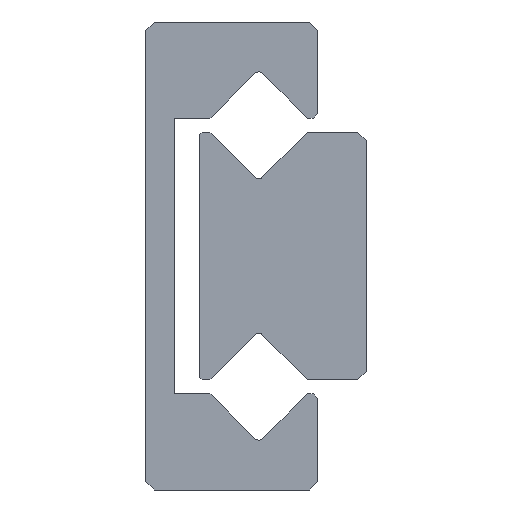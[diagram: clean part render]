
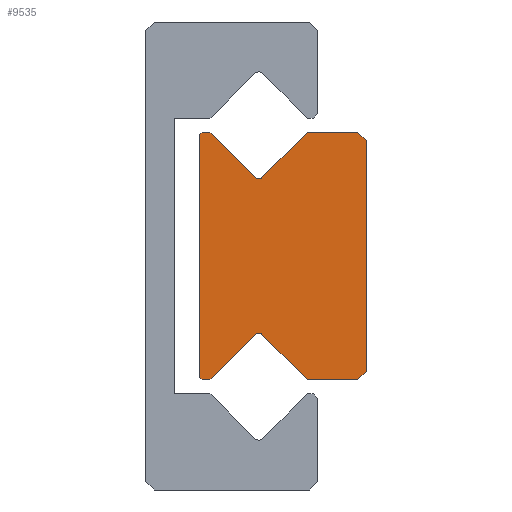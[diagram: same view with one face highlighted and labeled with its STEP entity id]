
A CAD part, left-side view. The second image highlights one B-rep face of the part: STEP entity #9535.
In plain terms, the highlighted planar face has unit normal (-1, 0, 0).
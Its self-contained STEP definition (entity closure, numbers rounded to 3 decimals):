
#52=CIRCLE('',#10086,0.2);
#57=CIRCLE('',#10099,0.2);
#1073=ORIENTED_EDGE('',*,*,#3935,.F.);
#1074=ORIENTED_EDGE('',*,*,#3987,.F.);
#1075=ORIENTED_EDGE('',*,*,#3981,.F.);
#1076=ORIENTED_EDGE('',*,*,#3978,.F.);
#1077=ORIENTED_EDGE('',*,*,#3975,.F.);
#1078=ORIENTED_EDGE('',*,*,#3972,.T.);
#1079=ORIENTED_EDGE('',*,*,#3969,.F.);
#1080=ORIENTED_EDGE('',*,*,#3966,.F.);
#1081=ORIENTED_EDGE('',*,*,#3963,.F.);
#1082=ORIENTED_EDGE('',*,*,#3960,.F.);
#1083=ORIENTED_EDGE('',*,*,#3954,.F.);
#1084=ORIENTED_EDGE('',*,*,#3951,.F.);
#1085=ORIENTED_EDGE('',*,*,#3948,.F.);
#1086=ORIENTED_EDGE('',*,*,#3945,.T.);
#1087=ORIENTED_EDGE('',*,*,#3942,.F.);
#1088=ORIENTED_EDGE('',*,*,#3939,.F.);
#3935=EDGE_CURVE('',#5409,#5410,#6401,.T.);
#3939=EDGE_CURVE('',#5410,#5413,#6405,.T.);
#3942=EDGE_CURVE('',#5413,#5415,#6408,.T.);
#3945=EDGE_CURVE('',#5417,#5415,#52,.T.);
#3948=EDGE_CURVE('',#5417,#5419,#6412,.T.);
#3951=EDGE_CURVE('',#5419,#5421,#6415,.T.);
#3954=EDGE_CURVE('',#5421,#5423,#6418,.T.);
#3960=EDGE_CURVE('',#5423,#5428,#6421,.T.);
#3963=EDGE_CURVE('',#5428,#5430,#6424,.T.);
#3966=EDGE_CURVE('',#5430,#5432,#6427,.T.);
#3969=EDGE_CURVE('',#5432,#5434,#6430,.T.);
#3972=EDGE_CURVE('',#5436,#5434,#57,.T.);
#3975=EDGE_CURVE('',#5436,#5438,#6434,.T.);
#3978=EDGE_CURVE('',#5438,#5440,#6437,.T.);
#3981=EDGE_CURVE('',#5440,#5442,#6440,.T.);
#3987=EDGE_CURVE('',#5442,#5409,#6443,.T.);
#5409=VERTEX_POINT('',#14453);
#5410=VERTEX_POINT('',#14454);
#5413=VERTEX_POINT('',#14462);
#5415=VERTEX_POINT('',#14468);
#5417=VERTEX_POINT('',#14474);
#5419=VERTEX_POINT('',#14480);
#5421=VERTEX_POINT('',#14486);
#5423=VERTEX_POINT('',#14492);
#5428=VERTEX_POINT('',#14504);
#5430=VERTEX_POINT('',#14510);
#5432=VERTEX_POINT('',#14516);
#5434=VERTEX_POINT('',#14522);
#5436=VERTEX_POINT('',#14528);
#5438=VERTEX_POINT('',#14534);
#5440=VERTEX_POINT('',#14540);
#5442=VERTEX_POINT('',#14546);
#6401=LINE('',#14452,#7239);
#6405=LINE('',#14461,#7243);
#6408=LINE('',#14467,#7246);
#6412=LINE('',#14479,#7250);
#6415=LINE('',#14485,#7253);
#6418=LINE('',#14491,#7256);
#6421=LINE('',#14503,#7259);
#6424=LINE('',#14509,#7262);
#6427=LINE('',#14515,#7265);
#6430=LINE('',#14521,#7268);
#6434=LINE('',#14533,#7272);
#6437=LINE('',#14539,#7275);
#6440=LINE('',#14545,#7278);
#6443=LINE('',#14557,#7281);
#7239=VECTOR('',#11262,1000.);
#7243=VECTOR('',#11268,1000.);
#7246=VECTOR('',#11273,1000.);
#7250=VECTOR('',#11285,1000.);
#7253=VECTOR('',#11290,1000.);
#7256=VECTOR('',#11295,1000.);
#7259=VECTOR('',#11306,1000.);
#7262=VECTOR('',#11311,1000.);
#7265=VECTOR('',#11316,1000.);
#7268=VECTOR('',#11321,1000.);
#7272=VECTOR('',#11333,1000.);
#7275=VECTOR('',#11338,1000.);
#7278=VECTOR('',#11343,1000.);
#7281=VECTOR('',#11354,1000.);
#8100=EDGE_LOOP('',(#1073,#1074,#1075,#1076,#1077,#1078,#1079,#1080,#1081,
#1082,#1083,#1084,#1085,#1086,#1087,#1088));
#8712=FACE_BOUND('',#8100,.T.);
#9316=PLANE('',#10109);
#9535=ADVANCED_FACE('',(#8712),#9316,.F.);
#10086=AXIS2_PLACEMENT_3D('',#14473,#11278,#11279);
#10099=AXIS2_PLACEMENT_3D('',#14527,#11326,#11327);
#10109=AXIS2_PLACEMENT_3D('',#14560,#11358,#11359);
#11262=DIRECTION('',(0.,-0.707,0.707));
#11268=DIRECTION('',(0.,-1.,0.));
#11273=DIRECTION('',(0.,-0.707,-0.707));
#11278=DIRECTION('',(1.,0.,0.));
#11279=DIRECTION('',(0.,0.,-1.));
#11285=DIRECTION('',(0.,-0.707,0.707));
#11290=DIRECTION('',(0.,-1.,0.));
#11295=DIRECTION('',(0.,-0.707,-0.707));
#11306=DIRECTION('',(0.,0.,-1.));
#11311=DIRECTION('',(0.,0.707,-0.707));
#11316=DIRECTION('',(0.,1.,0.));
#11321=DIRECTION('',(0.,0.707,0.707));
#11326=DIRECTION('',(1.,0.,0.));
#11327=DIRECTION('',(0.,0.,-1.));
#11333=DIRECTION('',(0.,0.707,-0.707));
#11338=DIRECTION('',(0.,1.,0.));
#11343=DIRECTION('',(0.,0.707,0.707));
#11354=DIRECTION('',(0.,0.,1.));
#11358=DIRECTION('',(1.,0.,0.));
#11359=DIRECTION('',(0.,0.,-1.));
#14452=CARTESIAN_POINT('',(-25.,6.05,4.4));
#14453=CARTESIAN_POINT('',(-25.,6.05,4.4));
#14454=CARTESIAN_POINT('',(-25.,5.95,4.5));
#14461=CARTESIAN_POINT('',(-25.,5.95,4.5));
#14462=CARTESIAN_POINT('',(-25.,5.671,4.5));
#14467=CARTESIAN_POINT('',(-25.,5.671,4.5));
#14468=CARTESIAN_POINT('',(-25.,4.041,2.87));
#14473=CARTESIAN_POINT('',(-25.,3.9,3.012));
#14474=CARTESIAN_POINT('',(-25.,3.759,2.87));
#14479=CARTESIAN_POINT('',(-25.,3.759,2.87));
#14480=CARTESIAN_POINT('',(-25.,2.129,4.5));
#14485=CARTESIAN_POINT('',(-25.,2.129,4.5));
#14486=CARTESIAN_POINT('',(-25.,0.3,4.5));
#14491=CARTESIAN_POINT('',(-25.,0.3,4.5));
#14492=CARTESIAN_POINT('',(-25.,0.,4.2));
#14503=CARTESIAN_POINT('',(-25.,0.,4.2));
#14504=CARTESIAN_POINT('',(-25.,0.,-4.2));
#14509=CARTESIAN_POINT('',(-25.,0.,-4.2));
#14510=CARTESIAN_POINT('',(-25.,0.3,-4.5));
#14515=CARTESIAN_POINT('',(-25.,0.3,-4.5));
#14516=CARTESIAN_POINT('',(-25.,2.129,-4.5));
#14521=CARTESIAN_POINT('',(-25.,2.129,-4.5));
#14522=CARTESIAN_POINT('',(-25.,3.759,-2.87));
#14527=CARTESIAN_POINT('',(-25.,3.9,-3.012));
#14528=CARTESIAN_POINT('',(-25.,4.041,-2.87));
#14533=CARTESIAN_POINT('',(-25.,4.041,-2.87));
#14534=CARTESIAN_POINT('',(-25.,5.671,-4.5));
#14539=CARTESIAN_POINT('',(-25.,5.671,-4.5));
#14540=CARTESIAN_POINT('',(-25.,5.95,-4.5));
#14545=CARTESIAN_POINT('',(-25.,5.95,-4.5));
#14546=CARTESIAN_POINT('',(-25.,6.05,-4.4));
#14557=CARTESIAN_POINT('',(-25.,6.05,-4.4));
#14560=CARTESIAN_POINT('',(-25.,3.9,3.012));
